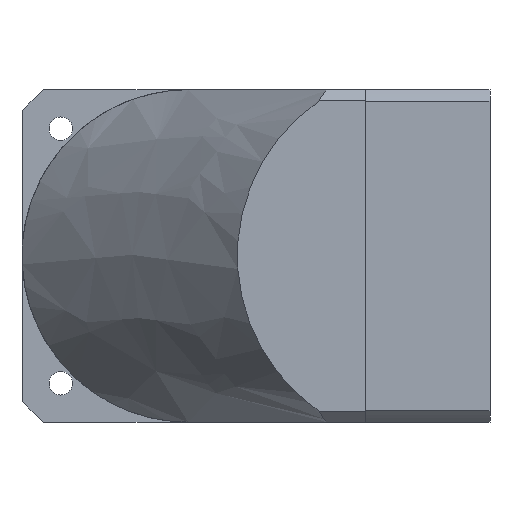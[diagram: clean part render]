
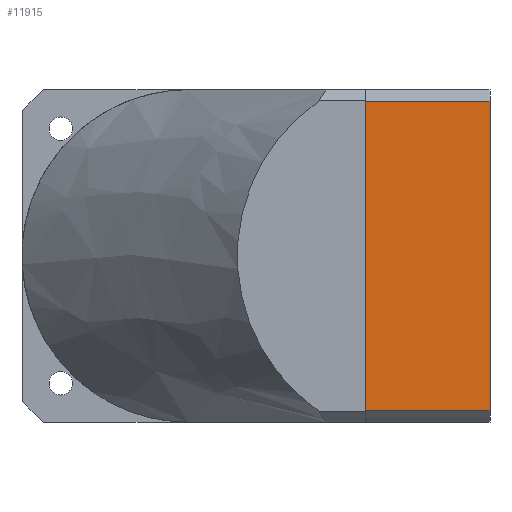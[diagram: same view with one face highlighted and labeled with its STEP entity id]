
A CAD part, front view. The second image highlights one B-rep face of the part: STEP entity #11915.
In plain terms, the highlighted planar face has unit normal (0, -1, 0).
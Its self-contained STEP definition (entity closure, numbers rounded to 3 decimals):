
#390 = LINE ( 'NONE', #15303, #21201 ) ;
#928 = EDGE_CURVE ( 'NONE', #6401, #12913, #6287, .T. ) ;
#944 = PLANE ( 'NONE',  #1664 ) ;
#1088 = ORIENTED_EDGE ( 'NONE', *, *, #928, .F. ) ;
#1664 = AXIS2_PLACEMENT_3D ( 'NONE', #22781, #19282, #4682 ) ;
#2308 = CARTESIAN_POINT ( 'NONE',  ( -60., -60., -45. ) ) ;
#4380 = VERTEX_POINT ( 'NONE', #16725 ) ;
#4682 = DIRECTION ( 'NONE',  ( 0., 0., -1. ) ) ;
#6216 = LINE ( 'NONE', #2308, #16758 ) ;
#6287 = LINE ( 'NONE', #21583, #10855 ) ;
#6401 = VERTEX_POINT ( 'NONE', #9763 ) ;
#8619 = VECTOR ( 'NONE', #22962, 1000. ) ;
#9548 = DIRECTION ( 'NONE',  ( -1., 0., 0. ) ) ;
#9763 = CARTESIAN_POINT ( 'NONE',  ( -55.893, -60., -45. ) ) ;
#9897 = FACE_OUTER_BOUND ( 'NONE', #19727, .T. ) ;
#10524 = VERTEX_POINT ( 'NONE', #20531 ) ;
#10635 = LINE ( 'NONE', #12000, #8619 ) ;
#10695 = DIRECTION ( 'NONE',  ( 0., 0., 1. ) ) ;
#10855 = VECTOR ( 'NONE', #10695, 1000. ) ;
#10991 = EDGE_CURVE ( 'NONE', #6401, #4380, #6216, .T. ) ;
#11589 = ORIENTED_EDGE ( 'NONE', *, *, #10991, .T. ) ;
#11915 = ADVANCED_FACE ( 'NONE', ( #9897 ), #944, .T. ) ;
#12000 = CARTESIAN_POINT ( 'NONE',  ( 55.893, -60., -45. ) ) ;
#12913 = VERTEX_POINT ( 'NONE', #14379 ) ;
#14379 = CARTESIAN_POINT ( 'NONE',  ( -55.893, -60., 0. ) ) ;
#14860 = DIRECTION ( 'NONE',  ( 1., 0., 0. ) ) ;
#15303 = CARTESIAN_POINT ( 'NONE',  ( 0., -60., 0. ) ) ;
#16725 = CARTESIAN_POINT ( 'NONE',  ( 55.893, -60., -45. ) ) ;
#16758 = VECTOR ( 'NONE', #14860, 1000. ) ;
#17875 = EDGE_CURVE ( 'NONE', #10524, #12913, #390, .T. ) ;
#19122 = ORIENTED_EDGE ( 'NONE', *, *, #17875, .T. ) ;
#19282 = DIRECTION ( 'NONE',  ( 0., -1., 0. ) ) ;
#19727 = EDGE_LOOP ( 'NONE', ( #1088, #11589, #22475, #19122 ) ) ;
#20531 = CARTESIAN_POINT ( 'NONE',  ( 55.893, -60., 0. ) ) ;
#21201 = VECTOR ( 'NONE', #9548, 1000. ) ;
#21583 = CARTESIAN_POINT ( 'NONE',  ( -55.893, -60., 0. ) ) ;
#22475 = ORIENTED_EDGE ( 'NONE', *, *, #23314, .T. ) ;
#22781 = CARTESIAN_POINT ( 'NONE',  ( -60., -60., -45. ) ) ;
#22962 = DIRECTION ( 'NONE',  ( 0., 0., 1. ) ) ;
#23314 = EDGE_CURVE ( 'NONE', #4380, #10524, #10635, .T. ) ;
